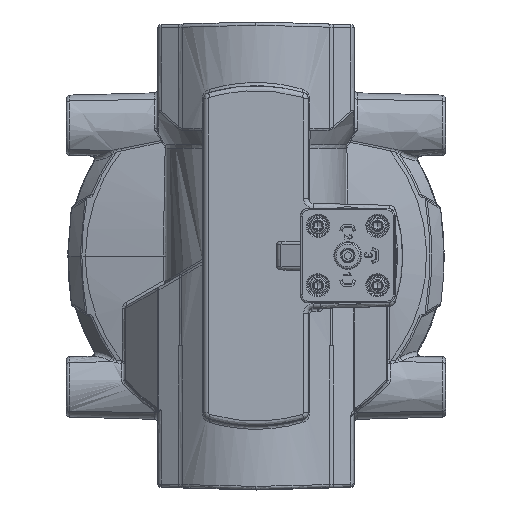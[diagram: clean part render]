
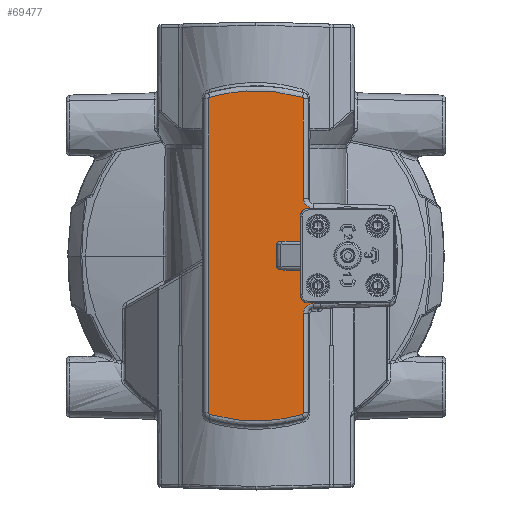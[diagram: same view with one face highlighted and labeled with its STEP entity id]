
A CAD part, top view. The second image highlights one B-rep face of the part: STEP entity #69477.
In plain terms, the highlighted free-form (B-spline) face has degree [1, 1] with [2, 2] control points.
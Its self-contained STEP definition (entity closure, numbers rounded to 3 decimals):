
#51254=CARTESIAN_POINT('V71',(14.508,17.554,
   96.5));
#51255=VERTEX_POINT('V71',#51254);
#51269=CARTESIAN_POINT('V70',(17.43,14.555,
   96.5));
#51270=VERTEX_POINT('V70',#51269);
#51271=CARTESIAN_POINT('E92',(17.43,14.555,
   96.5));
#51272=CARTESIAN_POINT('E92',(14.508,14.632,
   96.5));
#51273=CARTESIAN_POINT('E92',(14.508,17.554,
   96.5));
#51281=(BOUNDED_CURVE()B_SPLINE_CURVE(2,(#51271,#51272,#51273),
   .CIRCULAR_ARC.,.F.,.U.)B_SPLINE_CURVE_WITH_KNOTS((3,3),(2.0,
   3.967),.UNSPECIFIED.)CURVE()
   GEOMETRIC_REPRESENTATION_ITEM()RATIONAL_B_SPLINE_CURVE((1.0,
   0.716,1.0))REPRESENTATION_ITEM('E92'));
#51282=EDGE_CURVE('E92',#51270,#51255,#51281,.T.);
#51315=CARTESIAN_POINT('V72',(14.508,47.98,
   96.5));
#51316=VERTEX_POINT('V72',#51315);
#51330=CARTESIAN_POINT('E93',(14.508,17.554,
   96.5));
#51331=CARTESIAN_POINT('E93',(14.508,47.98,
   96.5));
#51332=B_SPLINE_CURVE_WITH_KNOTS('E93',1,(#51330,#51331),
   .POLYLINE_FORM.,.F.,.U.,(2,2),(2.0,14.913),
   .UNSPECIFIED.);
#51333=EDGE_CURVE('E93',#51255,#51316,#51332,.T.);
#51373=CARTESIAN_POINT('V73',(14.148,48.46,
   96.5));
#51374=VERTEX_POINT('V73',#51373);
#51388=CARTESIAN_POINT('E94',(14.508,47.98,
   96.5));
#51389=CARTESIAN_POINT('E94',(14.508,48.355,
   96.5));
#51390=CARTESIAN_POINT('E94',(14.148,48.46,
   96.5));
#51398=(BOUNDED_CURVE()B_SPLINE_CURVE(2,(#51388,#51389,#51390),
   .CIRCULAR_ARC.,.F.,.U.)B_SPLINE_CURVE_WITH_KNOTS((3,3),(2.0,
   3.0),.UNSPECIFIED.)CURVE()GEOMETRIC_REPRESENTATION_ITEM()
   RATIONAL_B_SPLINE_CURVE((1.0,0.8,1.0))
   REPRESENTATION_ITEM('E94'));
#51399=EDGE_CURVE('E94',#51316,#51374,#51398,.T.);
#51439=CARTESIAN_POINT('V74',(-14.132,48.46,
   96.5));
#51440=VERTEX_POINT('V74',#51439);
#51454=CARTESIAN_POINT('E95',(14.148,48.46,
   96.5));
#51455=CARTESIAN_POINT('E95',(0.008,52.584,
   96.5));
#51456=CARTESIAN_POINT('E95',(-14.132,48.46,
   96.5));
#51464=(BOUNDED_CURVE()B_SPLINE_CURVE(2,(#51454,#51455,#51456),
   .CIRCULAR_ARC.,.F.,.U.)B_SPLINE_CURVE_WITH_KNOTS((3,3),(2.0,
   14.165),.UNSPECIFIED.)CURVE()
   GEOMETRIC_REPRESENTATION_ITEM()RATIONAL_B_SPLINE_CURVE((1.0,
   0.96,1.0))REPRESENTATION_ITEM('E95'));
#51465=EDGE_CURVE('E95',#51374,#51440,#51464,.T.);
#51505=CARTESIAN_POINT('V75',(-14.492,47.98,
   96.5));
#51506=VERTEX_POINT('V75',#51505);
#51520=CARTESIAN_POINT('E96',(-14.132,48.46,
   96.5));
#51521=CARTESIAN_POINT('E96',(-14.492,48.355,
   96.5));
#51522=CARTESIAN_POINT('E96',(-14.492,47.98,
   96.5));
#51530=(BOUNDED_CURVE()B_SPLINE_CURVE(2,(#51520,#51521,#51522),
   .CIRCULAR_ARC.,.F.,.U.)B_SPLINE_CURVE_WITH_KNOTS((3,3),(2.0,
   3.0),.UNSPECIFIED.)CURVE()GEOMETRIC_REPRESENTATION_ITEM()
   RATIONAL_B_SPLINE_CURVE((1.0,0.8,1.0))
   REPRESENTATION_ITEM('E96'));
#51531=EDGE_CURVE('E96',#51440,#51506,#51530,.T.);
#51552=CARTESIAN_POINT('V76',(-14.492,
   -48.02,96.5));
#51553=VERTEX_POINT('V76',#51552);
#51569=CARTESIAN_POINT('E97',(-14.492,47.98,
   96.5));
#51570=CARTESIAN_POINT('E97',(-14.492,
   -48.02,96.5));
#51571=B_SPLINE_CURVE_WITH_KNOTS('E97',1,(#51569,#51570),
   .POLYLINE_FORM.,.F.,.U.,(2,2),(2.0,42.744),
   .UNSPECIFIED.);
#51572=EDGE_CURVE('E97',#51506,#51553,#51571,.T.);
#51616=CARTESIAN_POINT('V77',(-14.132,
   -48.5,96.5));
#51617=VERTEX_POINT('V77',#51616);
#51633=CARTESIAN_POINT('E98',(-14.492,
   -48.02,96.5));
#51634=CARTESIAN_POINT('E98',(-14.492,
   -48.395,96.5));
#51635=CARTESIAN_POINT('E98',(-14.132,
   -48.5,96.5));
#51643=(BOUNDED_CURVE()B_SPLINE_CURVE(2,(#51633,#51634,#51635),
   .CIRCULAR_ARC.,.F.,.U.)B_SPLINE_CURVE_WITH_KNOTS((3,3),(2.0,
   3.0),.UNSPECIFIED.)CURVE()GEOMETRIC_REPRESENTATION_ITEM()
   RATIONAL_B_SPLINE_CURVE((1.0,0.8,1.0))
   REPRESENTATION_ITEM('E98'));
#51644=EDGE_CURVE('E98',#51553,#51617,#51643,.T.);
#51696=CARTESIAN_POINT('V78',(14.148,-48.5,
   96.5));
#51697=VERTEX_POINT('V78',#51696);
#51713=CARTESIAN_POINT('E99',(-14.132,
   -48.5,96.5));
#51714=CARTESIAN_POINT('E99',(0.008,-52.624,
   96.5));
#51715=CARTESIAN_POINT('E99',(14.148,-48.5,
   96.5));
#51723=(BOUNDED_CURVE()B_SPLINE_CURVE(2,(#51713,#51714,#51715),
   .CIRCULAR_ARC.,.F.,.U.)B_SPLINE_CURVE_WITH_KNOTS((3,3),(2.0,
   14.165),.UNSPECIFIED.)CURVE()
   GEOMETRIC_REPRESENTATION_ITEM()RATIONAL_B_SPLINE_CURVE((1.0,
   0.96,1.0))REPRESENTATION_ITEM('E99'));
#51724=EDGE_CURVE('E99',#51617,#51697,#51723,.T.);
#51776=CARTESIAN_POINT('V79',(14.508,-48.02,
   96.5));
#51777=VERTEX_POINT('V79',#51776);
#51793=CARTESIAN_POINT('E100',(14.148,
   -48.5,96.5));
#51794=CARTESIAN_POINT('E100',(14.508,
   -48.395,96.5));
#51795=CARTESIAN_POINT('E100',(14.508,
   -48.02,96.5));
#51803=(BOUNDED_CURVE()B_SPLINE_CURVE(2,(#51793,#51794,#51795),
   .CIRCULAR_ARC.,.F.,.U.)B_SPLINE_CURVE_WITH_KNOTS((3,3),(2.0,
   3.0),.UNSPECIFIED.)CURVE()GEOMETRIC_REPRESENTATION_ITEM()
   RATIONAL_B_SPLINE_CURVE((1.0,0.8,1.0))
   REPRESENTATION_ITEM('E100'));
#51804=EDGE_CURVE('E100',#51697,#51777,#51803,.T.);
#51837=CARTESIAN_POINT('V80',(14.508,-17.589,
   96.5));
#51838=VERTEX_POINT('V80',#51837);
#51854=CARTESIAN_POINT('E101',(14.508,
   -48.02,96.5));
#51855=CARTESIAN_POINT('E101',(14.508,
   -17.589,96.5));
#51856=B_SPLINE_CURVE_WITH_KNOTS('E101',1,(#51854,#51855),
   .POLYLINE_FORM.,.F.,.U.,(2,2),(2.0,14.915),
   .UNSPECIFIED.);
#51857=EDGE_CURVE('E101',#51777,#51838,#51856,.T.);
#51884=CARTESIAN_POINT('V82',(19.581,-14.533,
   96.5));
#51885=VERTEX_POINT('V82',#51884);
#51899=CARTESIAN_POINT('V81',(17.429,-14.59,
   96.5));
#51900=VERTEX_POINT('V81',#51899);
#51901=CARTESIAN_POINT('E103',(17.429,
   -14.59,96.5));
#51902=CARTESIAN_POINT('E103',(19.581,
   -14.533,96.5));
#51903=B_SPLINE_CURVE_WITH_KNOTS('E103',1,(#51901,#51902),
   .POLYLINE_FORM.,.F.,.U.,(2,2),(2.0,3.0),.UNSPECIFIED.);
#51904=EDGE_CURVE('E103',#51900,#51885,#51903,.T.);
#51963=CARTESIAN_POINT('E102',(14.508,
   -17.589,96.5));
#51964=CARTESIAN_POINT('E102',(14.508,
   -14.667,96.5));
#51965=CARTESIAN_POINT('E102',(17.429,
   -14.59,96.5));
#51973=(BOUNDED_CURVE()B_SPLINE_CURVE(2,(#51963,#51964,#51965),
   .CIRCULAR_ARC.,.F.,.U.)B_SPLINE_CURVE_WITH_KNOTS((3,3),(2.0,
   3.966),.UNSPECIFIED.)CURVE()
   GEOMETRIC_REPRESENTATION_ITEM()RATIONAL_B_SPLINE_CURVE((1.0,
   0.716,1.0))REPRESENTATION_ITEM('E102'));
#51974=EDGE_CURVE('E102',#51838,#51900,#51973,.T.);
#69408=CARTESIAN_POINT('V67',(23.764,14.389,
   96.5));
#69409=VERTEX_POINT('V67',#69408);
#69427=CARTESIAN_POINT('E91',(23.764,14.389,
   96.5));
#69428=CARTESIAN_POINT('E91',(17.43,14.555,
   96.5));
#69429=B_SPLINE_CURVE_WITH_KNOTS('E91',1,(#69427,#69428),
   .POLYLINE_FORM.,.F.,.U.,(2,2),(9.192,
   11.881),.UNSPECIFIED.);
#69430=EDGE_CURVE('E91',#69409,#51270,#69429,.T.);
#69435=CARTESIAN_POINT('F25',(-17.692,
   -57.32,96.5));
#69436=CARTESIAN_POINT('F25',(47.204,-57.32,
   96.5));
#69437=CARTESIAN_POINT('F25',(-17.692,57.28,
   96.5));
#69438=CARTESIAN_POINT('F25',(47.204,57.28,
   96.5));
#69439=B_SPLINE_SURFACE_WITH_KNOTS('F25',1,1,((#69435,#69437),(
   #69436,#69438)),.PLANE_SURF.,.F.,.F.,.U.,(2,2),(2,2),(0.0,1.0),
   (0.0,1.766),.UNSPECIFIED.);
#69440=CARTESIAN_POINT('V66',(23.89,-14.426,
   96.5));
#69441=VERTEX_POINT('V66',#69440);
#69442=CARTESIAN_POINT('E86',(23.89,-14.426,
   96.5));
#69443=CARTESIAN_POINT('E86',(20.334,-13.413,
   96.5));
#69444=CARTESIAN_POINT('E86',(17.656,-10.863,
   96.5));
#69445=CARTESIAN_POINT('E86',(-1.159,7.052,
   96.5));
#69446=CARTESIAN_POINT('E86',(23.764,14.389,
   96.5));
#69454=(BOUNDED_CURVE()B_SPLINE_CURVE(2,(#69442,#69443,#69444,
   #69445,#69446),.CIRCULAR_ARC.,.F.,.U.)B_SPLINE_CURVE_WITH_KNOTS(
   (3,2,3),(0.0,0.083,0.416),.UNSPECIFIED.
   )CURVE()GEOMETRIC_REPRESENTATION_ITEM()RATIONAL_B_SPLINE_CURVE((
   0.813,0.875,1.0,0.5,1.0))
   REPRESENTATION_ITEM('E86'));
#69455=EDGE_CURVE('E86',#69441,#69409,#69454,.T.);
#69456=ORIENTED_EDGE('E86',*,*,#69455,.T.);
#69457=ORIENTED_EDGE('F27',*,*,#69430,.T.);
#69458=ORIENTED_EDGE('E92',*,*,#51282,.T.);
#69459=ORIENTED_EDGE('E93',*,*,#51333,.T.);
#69460=ORIENTED_EDGE('E94',*,*,#51399,.T.);
#69461=ORIENTED_EDGE('E95',*,*,#51465,.T.);
#69462=ORIENTED_EDGE('E96',*,*,#51531,.T.);
#69463=ORIENTED_EDGE('E97',*,*,#51572,.T.);
#69464=ORIENTED_EDGE('E98',*,*,#51644,.T.);
#69465=ORIENTED_EDGE('E99',*,*,#51724,.T.);
#69466=ORIENTED_EDGE('E100',*,*,#51804,.T.);
#69467=ORIENTED_EDGE('E101',*,*,#51857,.T.);
#69468=ORIENTED_EDGE('E102',*,*,#51974,.T.);
#69469=ORIENTED_EDGE('E103',*,*,#51904,.T.);
#69470=CARTESIAN_POINT('E104',(19.581,
   -14.539,96.5));
#69471=CARTESIAN_POINT('E104',(23.89,
   -14.426,96.5));
#69472=B_SPLINE_CURVE_WITH_KNOTS('E104',1,(#69470,#69471),
   .POLYLINE_FORM.,.F.,.U.,(2,2),(2.0,3.829),
   .UNSPECIFIED.);
#69473=EDGE_CURVE('E104',#51885,#69441,#69472,.T.);
#69474=ORIENTED_EDGE('E104',*,*,#69473,.T.);
#69475=EDGE_LOOP('F25',(#69456,#69457,#69458,#69459,#69460,#69461,
   #69462,#69463,#69464,#69465,#69466,#69467,#69468,#69469,#69474)
   );
#69476=FACE_OUTER_BOUND('F25',#69475,.T.);
#69477=ADVANCED_FACE('F25',(#69476),#69439,.T.);
